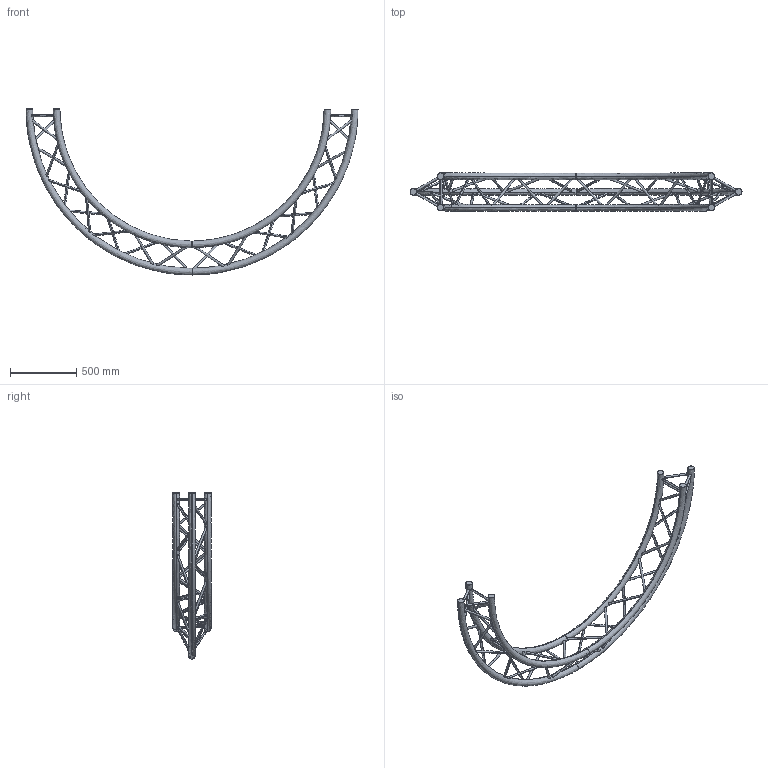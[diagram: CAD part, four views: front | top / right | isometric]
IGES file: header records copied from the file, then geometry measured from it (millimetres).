
Start section: SolidWorks IGES file using analytic representation for surfaces
Global section: file name: K:\BIBLIO\asd_biblio\SX290\Cercles\SXC29PE\SXC29250PE\SXC29250PE.IGS; native system: SolidWorks 2009; preprocessor: SolidWorks 2009; author: des3; date: 091021.113846; units: millimetre
Bounding box: 2500 x 287 x 1250 mm (x, y, z)
Surface area: 2207917 mm2 (no closed solid volume)
Topology: 0 solids, 0 shells, 114 faces, 7680 edges, 7680 vertices
Faces by surface type: revolution 96, bspline 18
